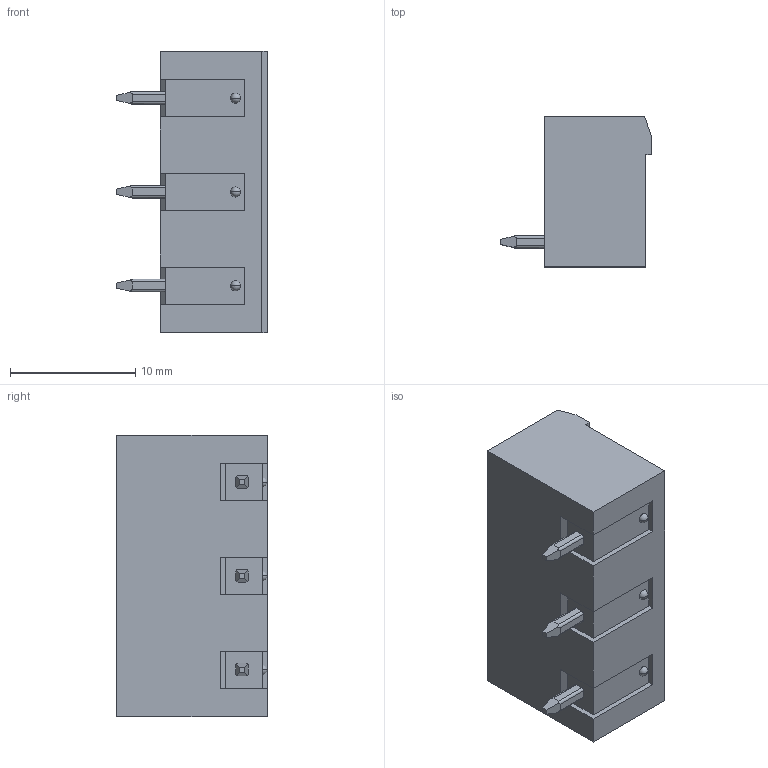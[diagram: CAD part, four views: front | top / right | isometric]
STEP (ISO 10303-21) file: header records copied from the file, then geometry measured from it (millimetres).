
FILE_DESCRIPTION((''),'2;1');
FILE_NAME('33','2019-04-09T',('zhenbing.lai'),(''),'CREO PARAMETRIC BY PTC INC, 2016260','CREO PARAMETRIC BY PTC INC, 2016260','');
FILE_SCHEMA(('CONFIG_CONTROL_DESIGN'));
Length unit declared in the file: millimetre
Products named in the file (1): 33
Bounding box: 12.05 x 12 x 22.5 mm (x, y, z)
Volume: 1352.8 mm3; surface area: 1586 mm2
Topology: 1 solids, 1 shells, 149 faces, 407 edges, 263 vertices
Faces by surface type: plane 113, cylinder 27, sphere 6, cone 3
Entity records: 4804 total; most frequent: CARTESIAN_POINT 1091, ORIENTED_EDGE 802, DIRECTION 690, EDGE_CURVE 401, VECTOR 302, LINE 302, VERTEX_POINT 263, AXIS2_PLACEMENT_3D 194
